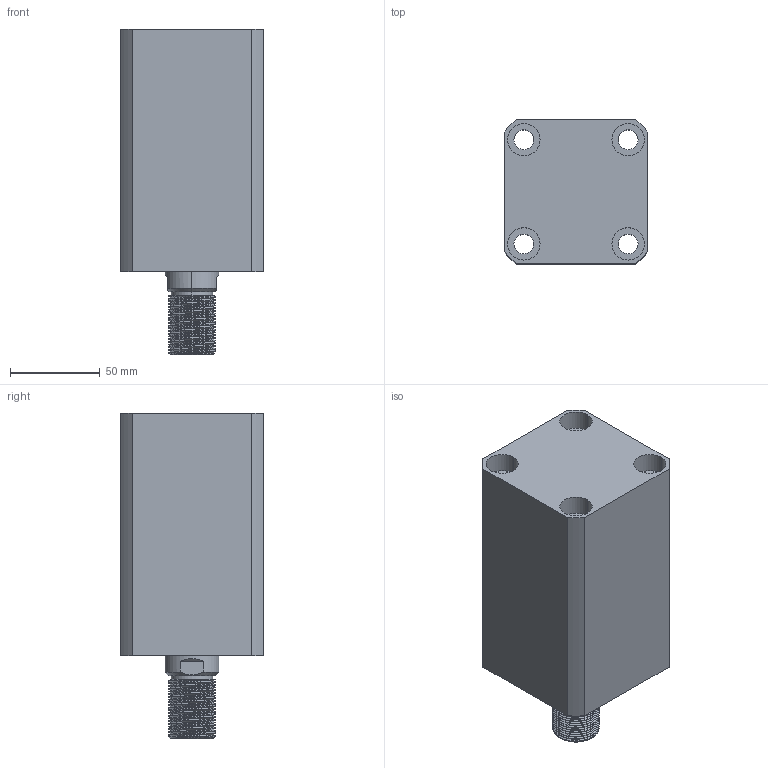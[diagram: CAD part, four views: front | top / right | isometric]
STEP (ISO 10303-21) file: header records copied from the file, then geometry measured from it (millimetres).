
FILE_DESCRIPTION (( 'STEP AP203' ), '1' );
FILE_NAME ('CHTB-SDMA50-75W.STEP', '2018-05-19T02:39:52', ( '' ), ( '' ), 'SwSTEP 2.0', 'SolidWorks 2015', '' );
FILE_SCHEMA (( 'CONFIG_CONTROL_DESIGN' ));
Length unit declared in the file: millimetre
Products named in the file (5): CHTB-SDMA50-75W; CHTM-SDMA50QG; 活塞杆SDMA50-75W; 掛极SDMA50-75W; M6
Assembly tree (5 placements, depth 2):
  CHTB-SDMA50-75W
    掛极SDMA50-75W
    活塞杆SDMA50-75W
    CHTM-SDMA50QG
    M6  x2
Bounding box: 80 x 80 x 181 mm (x, y, z)
Volume: 711847.1 mm3; surface area: 134833.6 mm2
Topology: 5 solids, 5 shells, 312 faces, 831 edges, 553 vertices
Faces by surface type: cylinder 179, plane 60, cone 29, bspline 28, torus 16
Entity records: 17949 total; most frequent: CARTESIAN_POINT 11067, ORIENTED_EDGE 1468, DIRECTION 1169, EDGE_CURVE 734, VERTEX_POINT 492, AXIS2_PLACEMENT_3D 472, EDGE_LOOP 320, ADVANCED_FACE 277
